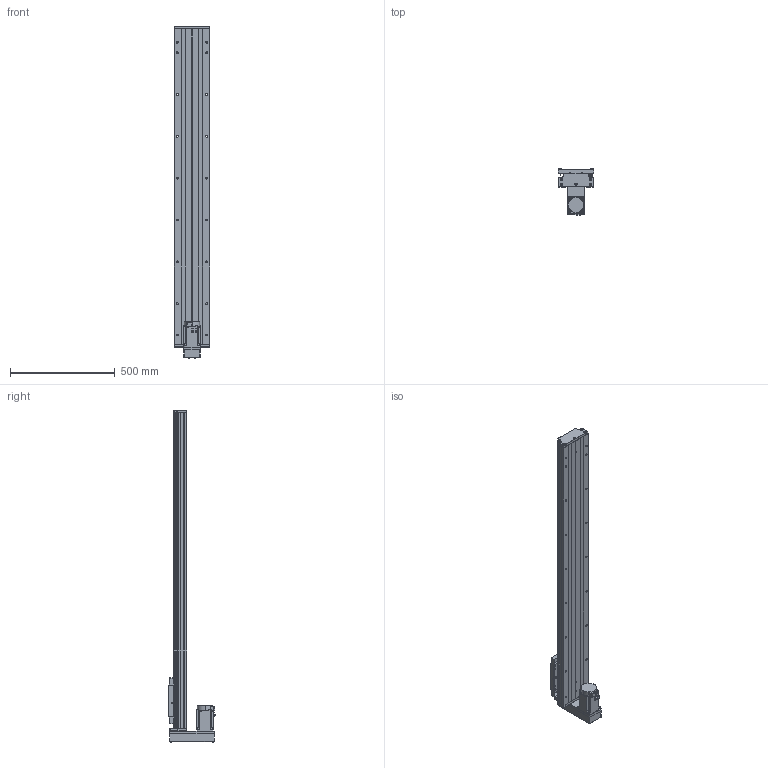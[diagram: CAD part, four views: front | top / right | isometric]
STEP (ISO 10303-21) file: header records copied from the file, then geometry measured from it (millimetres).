
FILE_DESCRIPTION (( 'STEP AP203' ), '1' );
FILE_NAME ('GTH17-1250-BM-M75-C4.step', '2023-06-30T12:38:31', ( '微软用户' ), ( '微软中国' ), 'SwSTEP 2.0', 'SolidWorks 2020', '' );
FILE_SCHEMA (( 'CONFIG_CONTROL_DESIGN' ));
Length unit declared in the file: millimetre
Products named in the file (19): GB1155-6X6; GTH17-031; GTH17-1250-BM-M75-C4; CTHA60-017; GBT 70.2-M3¡Á5_M3¡Á6; EE_SX911P_R; す晦芛蹟隊 M3℅5; GTH17-001_1250; CTHA60-016; HG-KN73J-S100; GTH17-002_GTH17-002; GBT 70.1-M3℅5; GBT 70.2-M4¡Á45_M4¡Á35; GTH17-004; GBT77-2000 M3×3; GTH17-015-2_CTHA86-015-2; GTH17-005; GBT 70.1-M6¡Á20_M6¡Á20; GTH17-033
Assembly tree (58 placements, depth 2):
  GTH17-1250-BM-M75-C4
    GTH17-001_1250
    GTH17-002_GTH17-002
    GTH17-004
    GTH17-005
    GB1155-6X6  x2
    CTHA60-017  x3
    EE_SX911P_R  x3
    CTHA60-016  x2
    GBT 70.1-M3℅5  x6
    GBT77-2000 M3×3  x6
    GBT 70.1-M6¡Á20_M6¡Á20  x10
    GTH17-031
    GBT 70.2-M3¡Á5_M3¡Á6  x8
    す晦芛蹟隊 M3℅5  x6
    HG-KN73J-S100
    GBT 70.2-M4¡Á45_M4¡Á35  x4
    GTH17-015-2_CTHA86-015-2
    GTH17-033
Bounding box: 171 x 222.3 x 1588.2 mm (x, y, z)
Volume: 12764288.7 mm3; surface area: 1666732 mm2
Topology: 61 solids, 61 shells, 2479 faces, 5917 edges, 3667 vertices
Faces by surface type: plane 1316, cylinder 690, cone 297, torus 124, sphere 32, bspline 20
Entity records: 45662 total; most frequent: CARTESIAN_POINT 10516, DIRECTION 6661, ORIENTED_EDGE 6546, EDGE_CURVE 3273, AXIS2_PLACEMENT_3D 2290, LINE 2081, VECTOR 2081, VERTEX_POINT 2079
